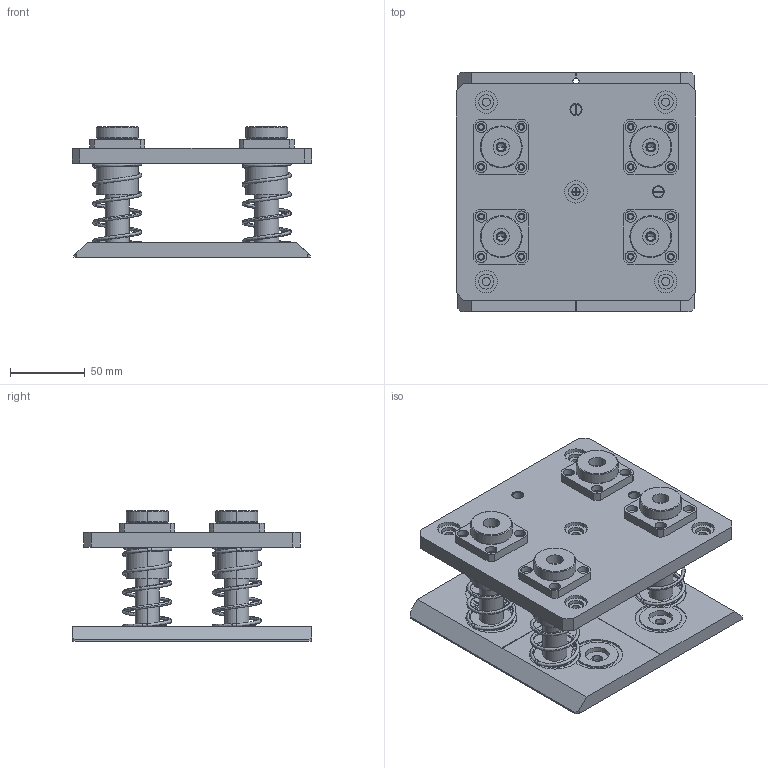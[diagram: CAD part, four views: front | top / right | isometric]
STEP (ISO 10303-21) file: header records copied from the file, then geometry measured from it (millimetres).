
FILE_DESCRIPTION (( 'STEP AP203' ), '1' );
FILE_NAME ('QCS-160B.STEP', '2023-12-27T09:12:32', ( '微软用户' ), ( '微软中国' ), 'SwSTEP 2.0', 'SolidWorks 2018', '' );
FILE_SCHEMA (( 'CONFIG_CONTROL_DESIGN' ));
Products named in the file (1): QCS-160B
Bounding box: 160 x 160 x 87.5 mm (x, y, z)
Surface area: 156611.6 mm2 (no closed solid volume)
Topology: 0 solids, 13 shells, 621 faces, 1415 edges, 899 vertices
Faces by surface type: cylinder 332, plane 173, cone 68, bspline 48
Entity records: 49511 total; most frequent: CARTESIAN_POINT 35337, DIRECTION 3104, ORIENTED_EDGE 2790, EDGE_CURVE 1399, AXIS2_PLACEMENT_3D 1304, VERTEX_POINT 899, EDGE_LOOP 798, CIRCLE 730
